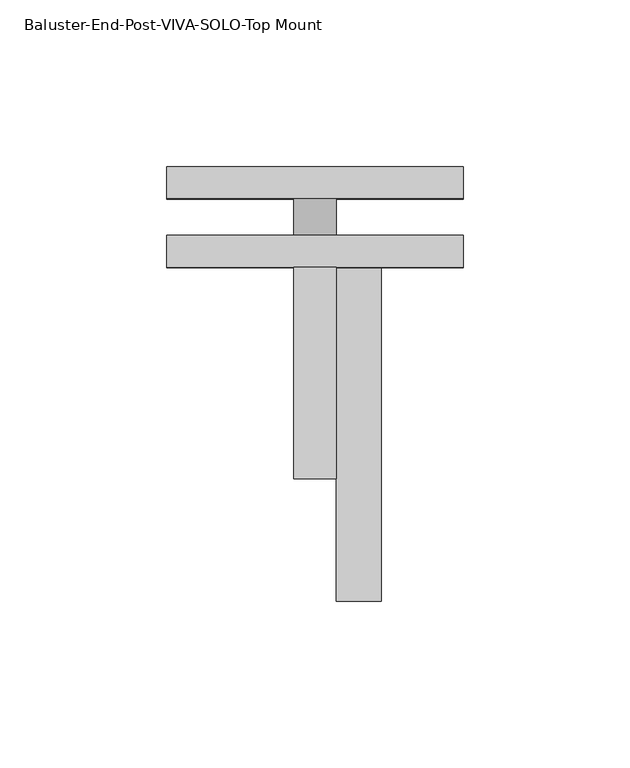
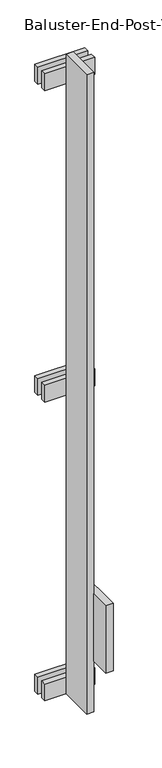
"""IFC4 building model written with IfcOpenShell, lengths in millimetres: proxy geometry, Baluster-End-Post-VIVA-SOLO-Top Mount : ANCHORED TO CONCRETE_FASCIA A1 MOUNT FOLD_STRAIGHT."""

from ifc_helpers import new_model, si_unit, point, frame, frame_2d, origin, place, context, project, spatial, polyline, circle_curve, trimmed, segment, composite_curve, outline, extrude, source, transform, mapped, element, save


def baluster_end_post_viva_solo_top_mount_22cecde8(model_context):
    return source(origin(), model_context, "Body", "SweptSolid", [
        extrude(outline(composite_curve([segment(trimmed(circle_curve(frame_2d((-294.2018268, -152.4)), 6.35), [point((-294.2018268, -146.05))], [point((-294.2018268, -158.75))], False, "CARTESIAN"), True, "CONTINUOUS"), segment(trimmed(circle_curve(frame_2d((-294.2018268, -152.4)), 6.35), [point((-294.2018268, -158.75))], [point((-294.2018268, -146.05))], False, "CARTESIAN"), True, "CONTINUOUS")], self_intersect=False)), frame((0.0, -63.209781, 0.0), z_axis=(0.0, 1.0, 0.0), x_axis=(0.0, 0.0, 1.0)), (0.0, 0.0, 1.0), 12.7),
        extrude(outline(composite_curve([segment(trimmed(circle_curve(frame_2d((268.5208758, -152.4)), 6.35), [point((268.5208758, -146.05))], [point((268.5208758, -158.75))], False, "CARTESIAN"), True, "CONTINUOUS"), segment(trimmed(circle_curve(frame_2d((268.5208758, -152.4)), 6.35), [point((268.5208758, -158.75))], [point((268.5208758, -146.05))], False, "CARTESIAN"), True, "CONTINUOUS")], self_intersect=False)), frame((0.0, -63.209781, 0.0), z_axis=(0.0, 1.0, 0.0), x_axis=(0.0, 0.0, 1.0)), (0.0, 0.0, 1.0), 12.7),
        extrude(outline(composite_curve([segment(trimmed(circle_curve(frame_2d((854.7429765, -152.4)), 6.35), [point((854.7429765, -146.05))], [point((854.7429765, -158.75))], False, "CARTESIAN"), True, "CONTINUOUS"), segment(trimmed(circle_curve(frame_2d((854.7429765, -152.4)), 6.35), [point((854.7429765, -158.75))], [point((854.7429765, -146.05))], False, "CARTESIAN"), True, "CONTINUOUS")], self_intersect=False)), frame((0.0, -63.209781, 0.0), z_axis=(0.0, 1.0, 0.0), x_axis=(0.0, 0.0, 1.0)), (0.0, 0.0, 1.0), 12.7),
        extrude(outline(polyline([(-132.55625, -72.734781), (-132.55625, -172.747281), (-146.05, -172.747281), (-146.05, -72.734781), (-132.55625, -72.734781)])), frame((0.0, 0.0, -215.3506464), z_axis=(0.0, 0.0, 1.0), x_axis=(1.0, 0.0, 0.0)), (0.0, 0.0, 1.0), 127.0),
        extrude(outline(polyline([(-146.05, -72.734781), (-146.05, -136.234781), (-158.75, -136.234781), (-158.75, -72.734781), (-146.05, -72.734781)])), frame((0.0, 0.0, -310.2742418), z_axis=(0.0, 0.0, 1.0), x_axis=(1.0, 0.0, 0.0)), (0.0, 0.0, 1.0), 1204.9740667),
        extrude(outline(polyline([(-196.85, -42.5925389), (-107.95, -42.5925389), (-107.95, -52.1175389), (-196.85, -52.1175389), (-196.85, -42.5925389)])), frame((0.0, 0.0, -310.2742418), z_axis=(0.0, 0.0, 1.0), x_axis=(1.0, 0.0, 0.0)), (0.0, 0.0, 1.0), 31.75),
        extrude(outline(polyline([(-196.85, -63.209781), (-107.95, -63.209781), (-107.95, -72.734781), (-196.85, -72.734781), (-196.85, -63.209781)])), frame((0.0, 0.0, -310.2742418), z_axis=(0.0, 0.0, 1.0), x_axis=(1.0, 0.0, 0.0)), (0.0, 0.0, 1.0), 31.75),
        extrude(outline(polyline([(-196.85, -42.5925389), (-107.95, -42.5925389), (-107.95, -52.1175389), (-196.85, -52.1175389), (-196.85, -42.5925389)])), frame((0.0, 0.0, 838.7824344), z_axis=(0.0, 0.0, 1.0), x_axis=(1.0, 0.0, 0.0)), (0.0, 0.0, 1.0), 31.75),
        extrude(outline(polyline([(-196.85, -42.5925389), (-107.95, -42.5925389), (-107.95, -52.1175389), (-196.85, -52.1175389), (-196.85, -42.5925389)])), frame((0.0, 0.0, 252.4484609), z_axis=(0.0, 0.0, 1.0), x_axis=(1.0, 0.0, 0.0)), (0.0, 0.0, 1.0), 31.75),
        extrude(outline(polyline([(-196.85, -63.209781), (-107.95, -63.209781), (-107.95, -72.734781), (-196.85, -72.734781), (-196.85, -63.209781)])), frame((0.0, 0.0, 838.7824344), z_axis=(0.0, 0.0, 1.0), x_axis=(1.0, 0.0, 0.0)), (0.0, 0.0, 1.0), 31.75),
        extrude(outline(polyline([(-196.85, -63.209781), (-107.95, -63.209781), (-107.95, -72.734781), (-196.85, -72.734781), (-196.85, -63.209781)])), frame((0.0, 0.0, 252.4484609), z_axis=(0.0, 0.0, 1.0), x_axis=(1.0, 0.0, 0.0)), (0.0, 0.0, 1.0), 31.75),
    ])


if __name__ == "__main__":
    model = new_model("IFC4")
    model_context = context("Model", 3, world=origin())
    ifc_project = project(units=[si_unit("LENGTHUNIT", "METRE", prefix="MILLI")], contexts=[model_context])
    site = spatial("IfcSite", under=ifc_project)
    building = spatial("IfcBuilding", under=site)
    placement = place(None, origin())
    baluster_end_post_viva_solo_top_mount_shape = baluster_end_post_viva_solo_top_mount_22cecde8(model_context)
    element("IfcBuildingElementProxy", 1, Name="Baluster-End-Post-VIVA-SOLO-Top Mount : ANCHORED TO CONCRETE_FASCIA A1 MOUNT FOLD_STRAIGHT", ObjectType="Baluster-End-Post-VIVA-SOLO-Top Mount : ANCHORED TO CONCRETE_FASCIA A1 MOUNT FOLD_STRAIGHT", at=placement, inside=building, context=model_context, shape_type="MappedRepresentation", body=[
        mapped(baluster_end_post_viva_solo_top_mount_shape, transform((0.0, 0.0, 0.0), x_axis=(1.0, 0.0, 0.0), y_axis=(0.0, 1.0, 0.0), z_axis=(0.0, 0.0, 1.0))),
    ])
    save(model, "model.ifc")
